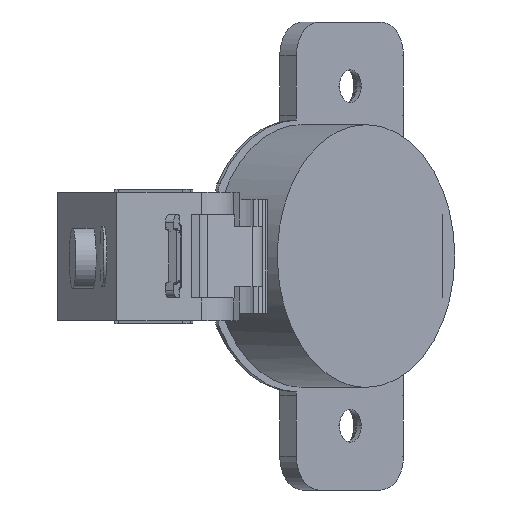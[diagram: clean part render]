
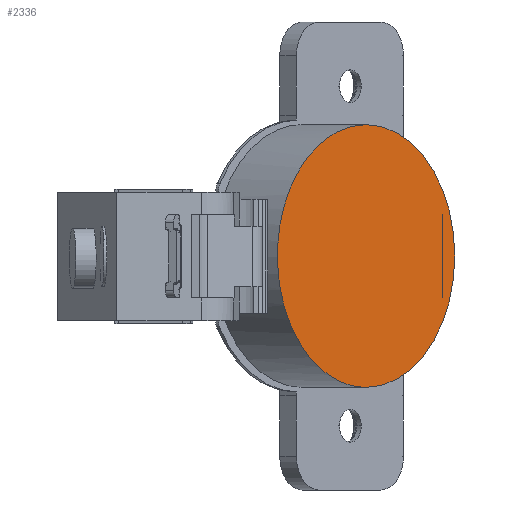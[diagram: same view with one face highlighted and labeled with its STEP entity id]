
A CAD part, left-side view. The second image highlights one B-rep face of the part: STEP entity #2336.
In plain terms, the highlighted planar face has unit normal (-0.675, -0.738, 0).
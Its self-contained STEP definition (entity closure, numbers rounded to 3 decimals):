
#176 = VERTEX_POINT ( 'NONE', #5324 ) ;
#246 = LINE ( 'NONE', #3320, #5384 ) ;
#320 = CARTESIAN_POINT ( 'NONE',  ( 58.626, -7.583, 5.593 ) ) ;
#536 = CARTESIAN_POINT ( 'NONE',  ( 41.07, 8.472, -15.143 ) ) ;
#682 = CARTESIAN_POINT ( 'NONE',  ( 39.681, 9.742, 13.984 ) ) ;
#779 = EDGE_CURVE ( 'NONE', #9299, #1418, #246, .T. ) ;
#1287 = CARTESIAN_POINT ( 'NONE',  ( 37.274, 11.943, -10.623 ) ) ;
#1337 = CARTESIAN_POINT ( 'NONE',  ( 34.717, 14.282, 2.356 ) ) ;
#1393 = ORIENTED_EDGE ( 'NONE', *, *, #4089, .T. ) ;
#1418 = VERTEX_POINT ( 'NONE', #320 ) ;
#1485 = CARTESIAN_POINT ( 'NONE',  ( 34.716, 14.283, -2.256 ) ) ;
#1528 = CARTESIAN_POINT ( 'NONE',  ( 47.557, 2.54, -17.35 ) ) ;
#1902 = CARTESIAN_POINT ( 'NONE',  ( 58.626, -7.583, 5.593 ) ) ;
#2046 = CARTESIAN_POINT ( 'NONE',  ( 36.345, 12.793, 8.839 ) ) ;
#2196 = CARTESIAN_POINT ( 'NONE',  ( 35.043, 13.984, -4.478 ) ) ;
#2336 = ADVANCED_FACE ( 'NONE', ( #3389, #9295 ), #2381, .F. ) ;
#2342 = DIRECTION ( 'NONE',  ( 0., 0., 1. ) ) ;
#2360 = DIRECTION ( 'NONE',  ( -0.675, -0.738, 0. ) ) ;
#2381 = PLANE ( 'NONE',  #3149 ) ;
#2617 = B_SPLINE_CURVE_WITH_KNOTS ( 'NONE', 3,
 ( #6090, #8355, #3614, #5331, #682, #9707, #2046, #5133, #1337, #1485, #2196, #9161, #1287, #8306, #536, #4572, #6689, #4472 ),
 .UNSPECIFIED., .F., .F.,
 ( 4, 2, 2, 2, 2, 2, 2, 2, 4 ),
 ( 0., 0.125, 0.25, 0.375, 0.5, 0.625, 0.75, 0.875, 1. ),
 .UNSPECIFIED. ) ;
#2950 = CIRCLE ( 'NONE', #6334, 17.4 ) ;
#3149 = AXIS2_PLACEMENT_3D ( 'NONE', #5474, #7934, #8542 ) ;
#3320 = CARTESIAN_POINT ( 'NONE',  ( 58.626, -7.583, 5.614 ) ) ;
#3370 = EDGE_CURVE ( 'NONE', #176, #7180, #2617, .T. ) ;
#3389 = FACE_OUTER_BOUND ( 'NONE', #5477, .T. ) ;
#3614 = CARTESIAN_POINT ( 'NONE',  ( 44.215, 5.595, 17.008 ) ) ;
#3847 = CARTESIAN_POINT ( 'NONE',  ( 58.626, -7.583, 5.593 ) ) ;
#3883 = DIRECTION ( 'NONE',  ( 0.738, -0.675, 0. ) ) ;
#3956 = DIRECTION ( 'NONE',  ( 0.738, -0.675, 0. ) ) ;
#3974 = CARTESIAN_POINT ( 'NONE',  ( 58.626, -7.583, -5.493 ) ) ;
#4089 = EDGE_CURVE ( 'NONE', #5182, #8366, #9513, .T. ) ;
#4156 = ORIENTED_EDGE ( 'NONE', *, *, #3370, .T. ) ;
#4472 = CARTESIAN_POINT ( 'NONE',  ( 47.557, 2.54, -17.35 ) ) ;
#4572 = CARTESIAN_POINT ( 'NONE',  ( 44.216, 5.595, -16.909 ) ) ;
#4774 = VECTOR ( 'NONE', #6595, 1000. ) ;
#5133 = CARTESIAN_POINT ( 'NONE',  ( 35.043, 13.984, 4.578 ) ) ;
#5172 = ORIENTED_EDGE ( 'NONE', *, *, #9188, .T. ) ;
#5182 = VERTEX_POINT ( 'NONE', #8630 ) ;
#5324 = CARTESIAN_POINT ( 'NONE',  ( 47.557, 2.54, 17.45 ) ) ;
#5331 = CARTESIAN_POINT ( 'NONE',  ( 41.071, 8.471, 15.243 ) ) ;
#5384 = VECTOR ( 'NONE', #9471, 1000. ) ;
#5474 = CARTESIAN_POINT ( 'NONE',  ( 55.649, -4.861, -7.65 ) ) ;
#5477 = EDGE_LOOP ( 'NONE', ( #4156, #5172 ) ) ;
#5483 = CARTESIAN_POINT ( 'NONE',  ( 59.436, -6.698, 5.593 ) ) ;
#6090 = CARTESIAN_POINT ( 'NONE',  ( 47.557, 2.54, 17.45 ) ) ;
#6148 = DIRECTION ( 'NONE',  ( -0.738, 0.675, 0. ) ) ;
#6165 = AXIS2_PLACEMENT_3D ( 'NONE', #7622, #9877, #3883 ) ;
#6334 = AXIS2_PLACEMENT_3D ( 'NONE', #8413, #2360, #6148 ) ;
#6595 = DIRECTION ( 'NONE',  ( 0., 0., 1. ) ) ;
#6689 = CARTESIAN_POINT ( 'NONE',  ( 45.854, 4.097, -17.35 ) ) ;
#6712 = EDGE_LOOP ( 'NONE', ( #8937, #8281, #1393, #9686 ) ) ;
#7180 = VERTEX_POINT ( 'NONE', #1528 ) ;
#7551 = AXIS2_PLACEMENT_3D ( 'NONE', #5483, #2342, #3956 ) ;
#7622 = CARTESIAN_POINT ( 'NONE',  ( 59.436, -6.698, -5.493 ) ) ;
#7771 = CIRCLE ( 'NONE', #6165, 1.2 ) ;
#7925 = EDGE_CURVE ( 'NONE', #8366, #1418, #9801, .T. ) ;
#7934 = DIRECTION ( 'NONE',  ( 0.675, 0.738, 0. ) ) ;
#8281 = ORIENTED_EDGE ( 'NONE', *, *, #8726, .F. ) ;
#8306 = CARTESIAN_POINT ( 'NONE',  ( 39.681, 9.743, -13.885 ) ) ;
#8355 = CARTESIAN_POINT ( 'NONE',  ( 45.854, 4.096, 17.45 ) ) ;
#8366 = VERTEX_POINT ( 'NONE', #3847 ) ;
#8413 = CARTESIAN_POINT ( 'NONE',  ( 47.557, 2.54, 0.05 ) ) ;
#8542 = DIRECTION ( 'NONE',  ( 0., 0., -1. ) ) ;
#8630 = CARTESIAN_POINT ( 'NONE',  ( 58.626, -7.583, -5.493 ) ) ;
#8726 = EDGE_CURVE ( 'NONE', #5182, #9299, #7771, .T. ) ;
#8937 = ORIENTED_EDGE ( 'NONE', *, *, #779, .F. ) ;
#9161 = CARTESIAN_POINT ( 'NONE',  ( 36.345, 12.793, -8.739 ) ) ;
#9188 = EDGE_CURVE ( 'NONE', #7180, #176, #2950, .T. ) ;
#9295 = FACE_BOUND ( 'NONE', #6712, .T. ) ;
#9299 = VERTEX_POINT ( 'NONE', #3974 ) ;
#9471 = DIRECTION ( 'NONE',  ( 0., 0., 1. ) ) ;
#9513 = LINE ( 'NONE', #1902, #4774 ) ;
#9686 = ORIENTED_EDGE ( 'NONE', *, *, #7925, .T. ) ;
#9707 = CARTESIAN_POINT ( 'NONE',  ( 37.274, 11.944, 10.723 ) ) ;
#9801 = CIRCLE ( 'NONE', #7551, 1.2 ) ;
#9877 = DIRECTION ( 'NONE',  ( 0., 0., 1. ) ) ;
